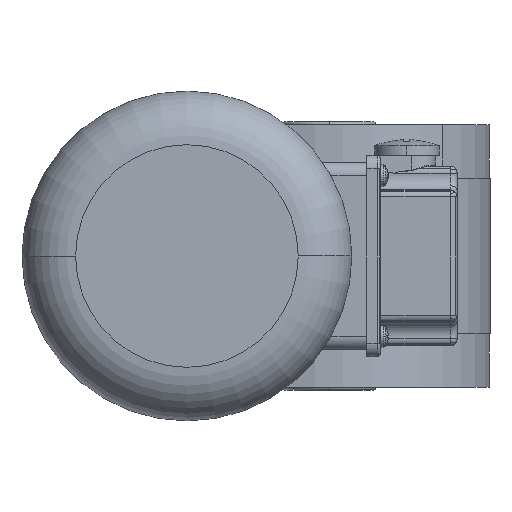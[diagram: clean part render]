
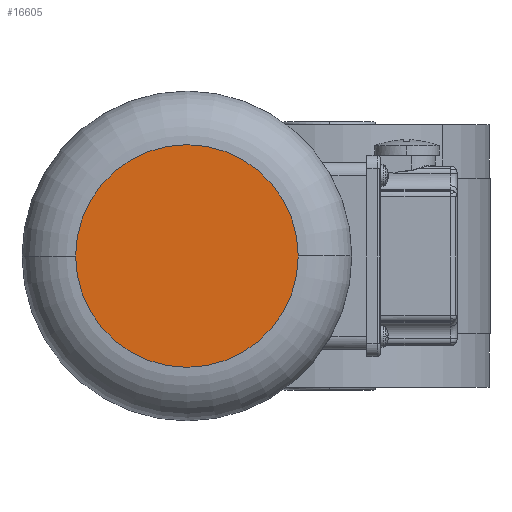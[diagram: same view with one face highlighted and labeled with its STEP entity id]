
A CAD part, left-side view. The second image highlights one B-rep face of the part: STEP entity #16605.
In plain terms, the highlighted planar face has unit normal (-1, 0, 0).
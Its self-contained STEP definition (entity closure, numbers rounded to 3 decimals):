
#120 = AXIS2_PLACEMENT_3D ( 'NONE', #22334, #12039, #20032 ) ;
#2852 = CARTESIAN_POINT ( 'NONE',  ( 0., 0., 0. ) ) ;
#5163 = DIRECTION ( 'NONE',  ( -1., 0., 0. ) ) ;
#5509 = EDGE_CURVE ( 'NONE', #14765, #13142, #17358, .T. ) ;
#5673 = AXIS2_PLACEMENT_3D ( 'NONE', #2852, #13543, #19100 ) ;
#9737 = CIRCLE ( 'NONE', #18769, 41.5 ) ;
#12039 = DIRECTION ( 'NONE',  ( 1., 0., 0. ) ) ;
#13142 = VERTEX_POINT ( 'NONE', #13330 ) ;
#13330 = CARTESIAN_POINT ( 'NONE',  ( 0., 0., 41.5 ) ) ;
#13430 = DIRECTION ( 'NONE',  ( 0., 0., -1. ) ) ;
#13543 = DIRECTION ( 'NONE',  ( -1., 0., 0. ) ) ;
#14353 = ORIENTED_EDGE ( 'NONE', *, *, #5509, .T. ) ;
#14765 = VERTEX_POINT ( 'NONE', #19654 ) ;
#15466 = CARTESIAN_POINT ( 'NONE',  ( 0., 0., 0. ) ) ;
#16605 = ADVANCED_FACE ( 'NONE', ( #26539 ), #18141, .F. ) ;
#17358 = CIRCLE ( 'NONE', #5673, 41.5 ) ;
#18141 = PLANE ( 'NONE',  #120 ) ;
#18769 = AXIS2_PLACEMENT_3D ( 'NONE', #15466, #5163, #13430 ) ;
#19100 = DIRECTION ( 'NONE',  ( 0., 0., -1. ) ) ;
#19654 = CARTESIAN_POINT ( 'NONE',  ( 0., 0., -41.5 ) ) ;
#20032 = DIRECTION ( 'NONE',  ( 0., 0., -1. ) ) ;
#22334 = CARTESIAN_POINT ( 'NONE',  ( 0., 0., 0. ) ) ;
#23243 = ORIENTED_EDGE ( 'NONE', *, *, #25372, .T. ) ;
#25372 = EDGE_CURVE ( 'NONE', #13142, #14765, #9737, .T. ) ;
#26137 = EDGE_LOOP ( 'NONE', ( #14353, #23243 ) ) ;
#26539 = FACE_OUTER_BOUND ( 'NONE', #26137, .T. ) ;
